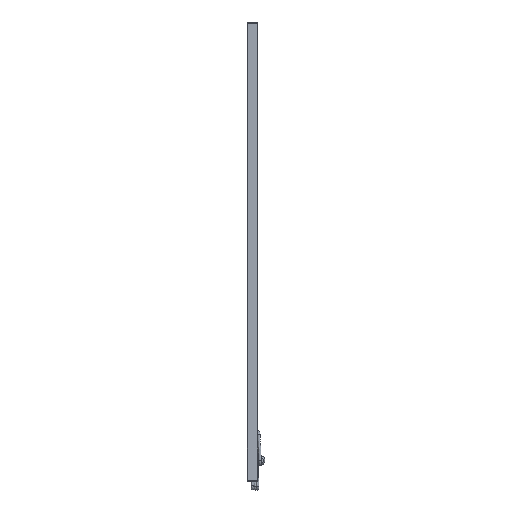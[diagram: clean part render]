
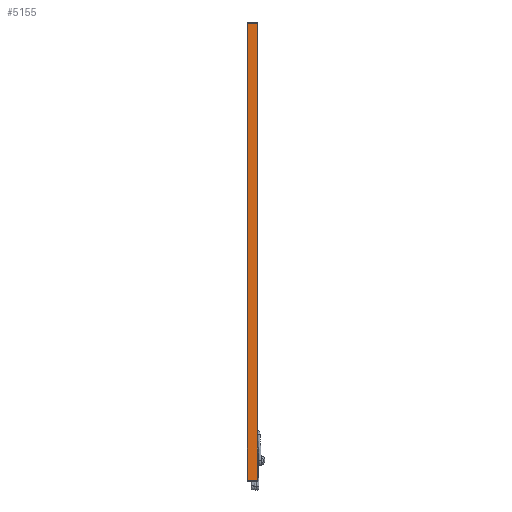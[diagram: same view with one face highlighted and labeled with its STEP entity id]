
A CAD part, front view. The second image highlights one B-rep face of the part: STEP entity #5155.
In plain terms, the highlighted planar face has unit normal (0, -1, 0).
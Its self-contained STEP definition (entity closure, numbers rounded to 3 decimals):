
#4877=CARTESIAN_POINT('',(18.421,0.,1778.0));
#4878=VERTEX_POINT('',#4877);
#4886=CARTESIAN_POINT('',(18.421,0.,0.0));
#4887=VERTEX_POINT('',#4886);
#4888=CARTESIAN_POINT('',(18.421,0.0,1778.0));
#4889=DIRECTION('',(0.0,0.0,-1.0));
#4890=VECTOR('',#4889,1778.0);
#4891=LINE('',#4888,#4890);
#4892=EDGE_CURVE('',#4878,#4887,#4891,.T.);
#4918=CARTESIAN_POINT('',(-18.421,0.,0.0));
#4919=VERTEX_POINT('',#4918);
#4920=CARTESIAN_POINT('',(-18.421,0.,0.0));
#4921=DIRECTION('',(1.0,0.0,0.0));
#4922=VECTOR('',#4921,36.842);
#4923=LINE('',#4920,#4922);
#4924=EDGE_CURVE('',#4919,#4887,#4923,.T.);
#5132=CARTESIAN_POINT('',(18.735,0.0,0.0));
#5133=DIRECTION('',(0.0,-1.0,0.0));
#5134=DIRECTION('',(0.0,0.0,-1.0));
#5135=AXIS2_PLACEMENT_3D('',#5132,#5133,#5134);
#5136=PLANE('',#5135);
#5137=ORIENTED_EDGE('',*,*,#4892,.F.);
#5138=CARTESIAN_POINT('',(-18.421,0.,1778.0));
#5139=VERTEX_POINT('',#5138);
#5140=CARTESIAN_POINT('',(18.421,0.,1778.0));
#5141=DIRECTION('',(-1.0,0.0,0.0));
#5142=VECTOR('',#5141,36.842);
#5143=LINE('',#5140,#5142);
#5144=EDGE_CURVE('',#4878,#5139,#5143,.T.);
#5145=ORIENTED_EDGE('',*,*,#5144,.T.);
#5146=CARTESIAN_POINT('',(-18.421,0.0,0.0));
#5147=DIRECTION('',(0.0,0.0,1.0));
#5148=VECTOR('',#5147,1778.0);
#5149=LINE('',#5146,#5148);
#5150=EDGE_CURVE('',#4919,#5139,#5149,.T.);
#5151=ORIENTED_EDGE('',*,*,#5150,.F.);
#5152=ORIENTED_EDGE('',*,*,#4924,.T.);
#5153=EDGE_LOOP('',(#5137,#5145,#5151,#5152));
#5154=FACE_OUTER_BOUND('',#5153,.T.);
#5155=ADVANCED_FACE('',(#5154),#5136,.T.);
